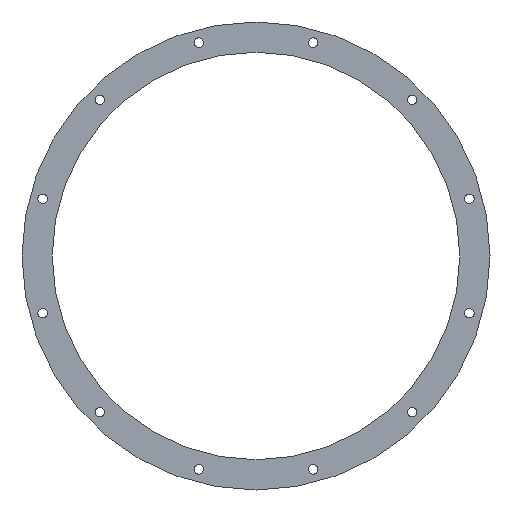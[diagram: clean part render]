
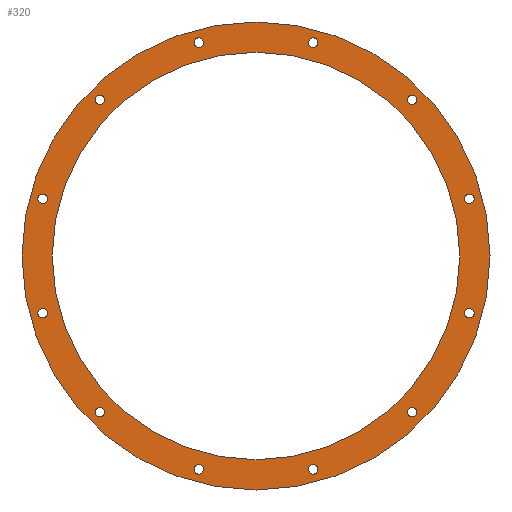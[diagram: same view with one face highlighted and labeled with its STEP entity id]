
A CAD part, left-side view. The second image highlights one B-rep face of the part: STEP entity #320.
In plain terms, the highlighted planar face has unit normal (-1, 0, 0).
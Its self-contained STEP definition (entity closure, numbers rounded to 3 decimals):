
#17=PLANE('',#376);
#47=FACE_BOUND('',#125,.T.);
#48=FACE_BOUND('',#126,.T.);
#49=FACE_BOUND('',#127,.T.);
#50=FACE_BOUND('',#128,.T.);
#51=FACE_BOUND('',#129,.T.);
#52=FACE_BOUND('',#130,.T.);
#53=FACE_BOUND('',#131,.T.);
#54=FACE_BOUND('',#132,.T.);
#55=FACE_BOUND('',#133,.T.);
#56=FACE_BOUND('',#134,.T.);
#57=FACE_BOUND('',#135,.T.);
#58=FACE_BOUND('',#136,.T.);
#59=FACE_BOUND('',#137,.T.);
#77=FACE_OUTER_BOUND('',#124,.T.);
#124=EDGE_LOOP('',(#274));
#125=EDGE_LOOP('',(#275));
#126=EDGE_LOOP('',(#276));
#127=EDGE_LOOP('',(#277));
#128=EDGE_LOOP('',(#278));
#129=EDGE_LOOP('',(#279));
#130=EDGE_LOOP('',(#280));
#131=EDGE_LOOP('',(#281));
#132=EDGE_LOOP('',(#282));
#133=EDGE_LOOP('',(#283));
#134=EDGE_LOOP('',(#284));
#135=EDGE_LOOP('',(#285));
#136=EDGE_LOOP('',(#286));
#137=EDGE_LOOP('',(#287));
#139=CIRCLE('',#331,4.75);
#141=CIRCLE('',#334,4.75);
#143=CIRCLE('',#337,4.75);
#145=CIRCLE('',#340,4.75);
#147=CIRCLE('',#343,4.75);
#149=CIRCLE('',#346,4.75);
#151=CIRCLE('',#349,4.75);
#153=CIRCLE('',#352,4.75);
#155=CIRCLE('',#355,4.75);
#157=CIRCLE('',#358,4.75);
#159=CIRCLE('',#361,4.75);
#161=CIRCLE('',#364,4.75);
#162=CIRCLE('',#366,232.);
#167=CIRCLE('',#375,202.);
#169=VERTEX_POINT('',#479);
#171=VERTEX_POINT('',#484);
#173=VERTEX_POINT('',#489);
#175=VERTEX_POINT('',#494);
#177=VERTEX_POINT('',#499);
#179=VERTEX_POINT('',#504);
#181=VERTEX_POINT('',#509);
#183=VERTEX_POINT('',#514);
#185=VERTEX_POINT('',#519);
#187=VERTEX_POINT('',#524);
#189=VERTEX_POINT('',#529);
#191=VERTEX_POINT('',#534);
#192=VERTEX_POINT('',#537);
#197=VERTEX_POINT('',#551);
#199=EDGE_CURVE('',#169,#169,#139,.T.);
#201=EDGE_CURVE('',#171,#171,#141,.T.);
#203=EDGE_CURVE('',#173,#173,#143,.T.);
#205=EDGE_CURVE('',#175,#175,#145,.T.);
#207=EDGE_CURVE('',#177,#177,#147,.T.);
#209=EDGE_CURVE('',#179,#179,#149,.T.);
#211=EDGE_CURVE('',#181,#181,#151,.T.);
#213=EDGE_CURVE('',#183,#183,#153,.T.);
#215=EDGE_CURVE('',#185,#185,#155,.T.);
#217=EDGE_CURVE('',#187,#187,#157,.T.);
#219=EDGE_CURVE('',#189,#189,#159,.T.);
#221=EDGE_CURVE('',#191,#191,#161,.T.);
#222=EDGE_CURVE('',#192,#192,#162,.T.);
#227=EDGE_CURVE('',#197,#197,#167,.T.);
#274=ORIENTED_EDGE('',*,*,#222,.F.);
#275=ORIENTED_EDGE('',*,*,#199,.T.);
#276=ORIENTED_EDGE('',*,*,#201,.T.);
#277=ORIENTED_EDGE('',*,*,#203,.T.);
#278=ORIENTED_EDGE('',*,*,#205,.T.);
#279=ORIENTED_EDGE('',*,*,#207,.T.);
#280=ORIENTED_EDGE('',*,*,#209,.T.);
#281=ORIENTED_EDGE('',*,*,#211,.T.);
#282=ORIENTED_EDGE('',*,*,#213,.T.);
#283=ORIENTED_EDGE('',*,*,#215,.T.);
#284=ORIENTED_EDGE('',*,*,#217,.T.);
#285=ORIENTED_EDGE('',*,*,#219,.T.);
#286=ORIENTED_EDGE('',*,*,#221,.T.);
#287=ORIENTED_EDGE('',*,*,#227,.T.);
#320=ADVANCED_FACE('',(#77,#47,#48,#49,#50,#51,#52,#53,#54,#55,#56,#57,
#58,#59),#17,.T.);
#331=AXIS2_PLACEMENT_3D('',#480,#383,#384);
#334=AXIS2_PLACEMENT_3D('',#485,#389,#390);
#337=AXIS2_PLACEMENT_3D('',#490,#395,#396);
#340=AXIS2_PLACEMENT_3D('',#495,#401,#402);
#343=AXIS2_PLACEMENT_3D('',#500,#407,#408);
#346=AXIS2_PLACEMENT_3D('',#505,#413,#414);
#349=AXIS2_PLACEMENT_3D('',#510,#419,#420);
#352=AXIS2_PLACEMENT_3D('',#515,#425,#426);
#355=AXIS2_PLACEMENT_3D('',#520,#431,#432);
#358=AXIS2_PLACEMENT_3D('',#525,#437,#438);
#361=AXIS2_PLACEMENT_3D('',#530,#443,#444);
#364=AXIS2_PLACEMENT_3D('',#535,#449,#450);
#366=AXIS2_PLACEMENT_3D('',#538,#453,#454);
#375=AXIS2_PLACEMENT_3D('',#552,#471,#472);
#376=AXIS2_PLACEMENT_3D('',#553,#473,#474);
#383=DIRECTION('center_axis',(1.,0.,0.));
#384=DIRECTION('ref_axis',(0.,0.5,0.866));
#389=DIRECTION('center_axis',(1.,0.,0.));
#390=DIRECTION('ref_axis',(0.,0.866,0.5));
#395=DIRECTION('center_axis',(1.,0.,0.));
#396=DIRECTION('ref_axis',(0.,1.,0.));
#401=DIRECTION('center_axis',(1.,0.,0.));
#402=DIRECTION('ref_axis',(0.,0.866,-0.5));
#407=DIRECTION('center_axis',(1.,0.,0.));
#408=DIRECTION('ref_axis',(0.,0.5,-0.866));
#413=DIRECTION('center_axis',(1.,0.,0.));
#414=DIRECTION('ref_axis',(0.,0.,-1.));
#419=DIRECTION('center_axis',(1.,0.,0.));
#420=DIRECTION('ref_axis',(0.,-0.5,-0.866));
#425=DIRECTION('center_axis',(1.,0.,0.));
#426=DIRECTION('ref_axis',(0.,-0.866,-0.5));
#431=DIRECTION('center_axis',(1.,0.,0.));
#432=DIRECTION('ref_axis',(0.,-1.,0.));
#437=DIRECTION('center_axis',(1.,0.,0.));
#438=DIRECTION('ref_axis',(0.,-0.866,0.5));
#443=DIRECTION('center_axis',(1.,0.,0.));
#444=DIRECTION('ref_axis',(0.,-0.5,0.866));
#449=DIRECTION('center_axis',(1.,0.,0.));
#450=DIRECTION('ref_axis',(0.,0.,1.));
#453=DIRECTION('center_axis',(1.,0.,0.));
#454=DIRECTION('ref_axis',(0.,0.,-1.));
#471=DIRECTION('center_axis',(1.,0.,0.));
#472=DIRECTION('ref_axis',(0.,0.,-1.));
#473=DIRECTION('center_axis',(-1.,0.,0.));
#474=DIRECTION('ref_axis',(0.,0.,1.));
#479=CARTESIAN_POINT('',(0.,213.913,-52.568));
#480=CARTESIAN_POINT('Origin',(0.,211.538,-56.681));
#484=CARTESIAN_POINT('',(0.,158.97,-152.481));
#485=CARTESIAN_POINT('Origin',(0.,154.856,-154.856));
#489=CARTESIAN_POINT('',(0.,61.431,-211.538));
#490=CARTESIAN_POINT('Origin',(0.,56.681,-211.538));
#494=CARTESIAN_POINT('',(0.,-52.568,-213.913));
#495=CARTESIAN_POINT('Origin',(0.,-56.681,-211.538));
#499=CARTESIAN_POINT('',(0.,-152.481,-158.97));
#500=CARTESIAN_POINT('Origin',(0.,-154.856,-154.856));
#504=CARTESIAN_POINT('',(0.,-211.538,-61.431));
#505=CARTESIAN_POINT('Origin',(0.,-211.538,-56.681));
#509=CARTESIAN_POINT('',(0.,-213.913,52.568));
#510=CARTESIAN_POINT('Origin',(0.,-211.538,56.681));
#514=CARTESIAN_POINT('',(0.,-158.97,152.481));
#515=CARTESIAN_POINT('Origin',(0.,-154.856,154.856));
#519=CARTESIAN_POINT('',(0.,-61.431,211.538));
#520=CARTESIAN_POINT('Origin',(0.,-56.681,211.538));
#524=CARTESIAN_POINT('',(0.,52.568,213.913));
#525=CARTESIAN_POINT('Origin',(0.,56.681,211.538));
#529=CARTESIAN_POINT('',(0.,152.481,158.97));
#530=CARTESIAN_POINT('Origin',(0.,154.856,154.856));
#534=CARTESIAN_POINT('',(0.,211.538,61.431));
#535=CARTESIAN_POINT('Origin',(0.,211.538,56.681));
#537=CARTESIAN_POINT('',(0.,232.,0.));
#538=CARTESIAN_POINT('Origin',(0.,0.,0.));
#551=CARTESIAN_POINT('',(0.,202.,0.));
#552=CARTESIAN_POINT('Origin',(0.,0.,0.));
#553=CARTESIAN_POINT('Origin',(0.,232.,0.));
